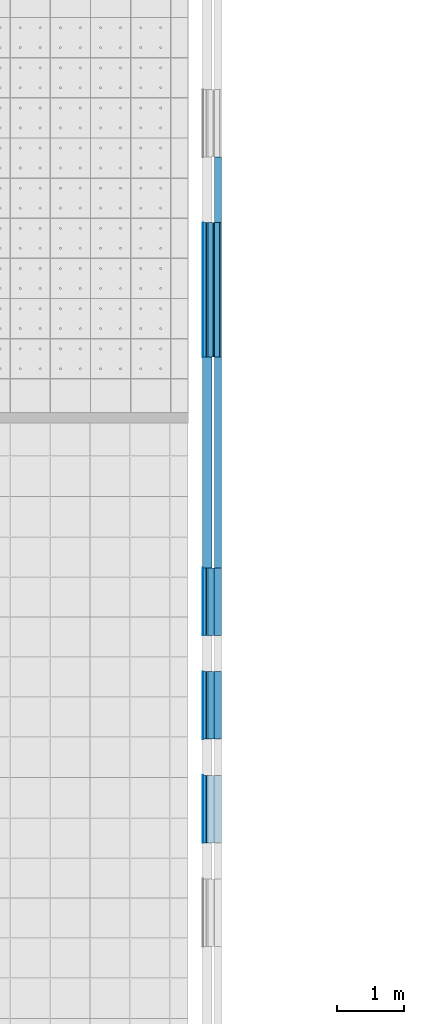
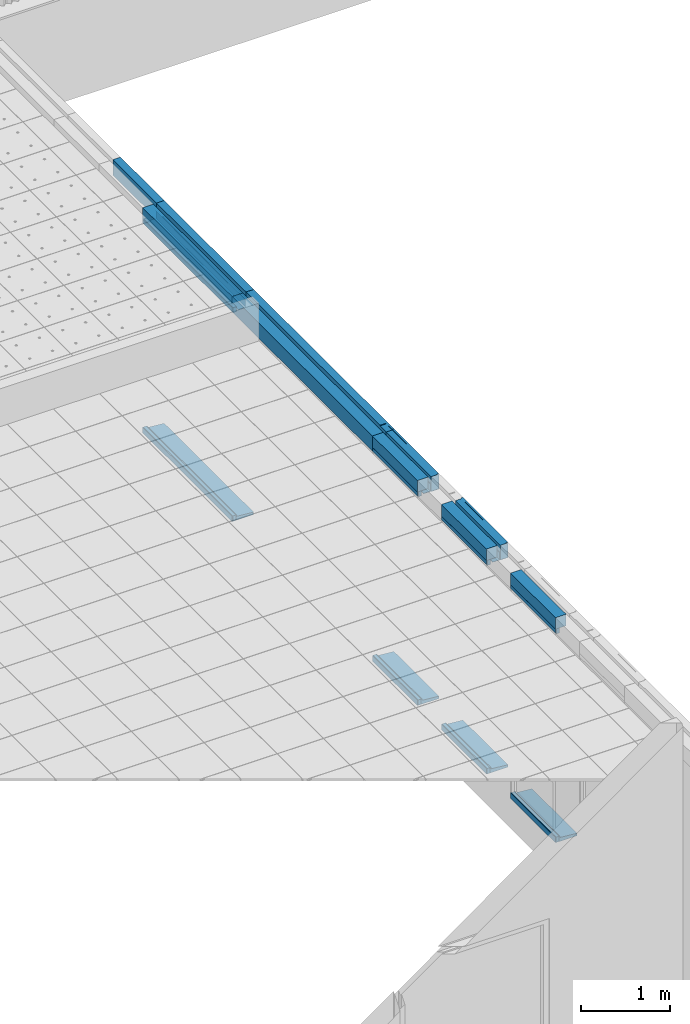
# One storey, part 74 of 338: 36 building element parts, 10 elements without a shape of their own.
"""IFC2X3 building model written with IfcOpenShell, lengths in millimetres."""

from ifc_helpers import new_model, entity, si_unit, converted_unit, derived_unit, money_unit, direction, frame, origin_with_axes, place, context, subcontext, project, spatial, faceted_brep, material, type_object, element, aggregate, save


model = new_model("IFC2X3")

# Units and contexts
model_context = context("Model", 3, precision=0.01, world=origin_with_axes(), true_north=direction((0.0, 1.0)))
plan_context = context("Plan", 3, precision=0.01, world=origin_with_axes(), true_north=direction((0.0, 1.0)))
body_context = subcontext(model_context, "Body", "Model", "MODEL_VIEW")
ifc_project = project(units=[si_unit("LENGTHUNIT", "METRE", prefix="MILLI"), si_unit("AREAUNIT", "SQUARE_METRE"), si_unit("VOLUMEUNIT", "CUBIC_METRE"), converted_unit("PLANEANGLEUNIT", "DEGREE", entity("IfcPlaneAngleMeasure", 0.0174532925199), si_unit("PLANEANGLEUNIT", "RADIAN"), dimensions=[0, 0, 0, 0, 0, 0, 0]), money_unit("EUR"), converted_unit("TIMEUNIT", "Year", entity("IfcTimeMeasure", 31556926.0), si_unit("TIMEUNIT", "SECOND"), dimensions=[0, 0, 1, 0, 0, 0, 0]), si_unit("MASSUNIT", "GRAM", prefix="KILO"), si_unit("THERMODYNAMICTEMPERATUREUNIT", "DEGREE_CELSIUS"), si_unit("LUMINOUSINTENSITYUNIT", "LUMEN"), si_unit("ENERGYUNIT", "JOULE", prefix="MEGA"), derived_unit("THERMALCONDUCTANCEUNIT", [(si_unit("POWERUNIT", "WATT"), 1), (si_unit("LENGTHUNIT", "METRE"), -1), (si_unit("THERMODYNAMICTEMPERATUREUNIT", "KELVIN"), -1)]), derived_unit("SPECIFICHEATCAPACITYUNIT", [(si_unit("ENERGYUNIT", "JOULE"), 1), (si_unit("MASSUNIT", "GRAM", prefix="KILO"), -1), (si_unit("THERMODYNAMICTEMPERATUREUNIT", "KELVIN"), -1)]), derived_unit("MASSDENSITYUNIT", [(si_unit("MASSUNIT", "GRAM", prefix="KILO"), 1), (si_unit("VOLUMEUNIT", "CUBIC_METRE"), -1)])], contexts=[model_context, plan_context])

# Site, building, storey
site_placement = place(None, origin_with_axes())
site = spatial("IfcSite", under=ifc_project, at=site_placement, Name="Fortuinstraat Woensdrecht", CompositionType="ELEMENT")
building_placement = place(site_placement, origin_with_axes())
building = spatial("IfcBuilding", under=site, at=building_placement, Name="IKC Fortuna", CompositionType="ELEMENT")
storey_placement = place(building_placement, origin_with_axes())
storey = spatial("IfcBuildingStorey", under=building, at=storey_placement, Name="00 begane grond", CompositionType="ELEMENT", Elevation=0.0)

# Covering, building element parts
covering_type_1 = type_object("IfcCoveringType", Name="41 Latei MW rollaag 280 x 227", PredefinedType="NOTDEFINED")
covering_1_placement = place(storey_placement, frame((34973.4270641, 14182.1816378, 2800.0), z_axis=(0.0, 0.0, 1.0), x_axis=(0.0, -1.0, 0.0)))
covering_1 = element("IfcCovering", 1, at=covering_1_placement, inside=storey, type_object=covering_type_1, Name="41_Afwerking_Latei + rollaag", PredefinedType="NOTDEFINED")
ifc_material_1 = material(Name="Metaal - Staal C")
building_element_part_1_placement = place(covering_1_placement, origin_with_axes())
building_element_part_1 = element("IfcBuildingElementPart", 2, at=building_element_part_1_placement, material=ifc_material_1, Name="Metaal - Staal C", context=body_context, shape_type="Brep", body=[
    faceted_brep([(2010.0, 19.9999930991, 120.999993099), (0.0, 19.9999930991, 120.999993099), (0.0, 18.0000000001, 119.0), (2010.0, 18.0000000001, 119.0), (0.0, 19.9999930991, 117.000006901), (2010.0, 19.9999930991, 117.000006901)], [[[0, 1, 2, 3]], [[4, 1, 0, 5]], [[1, 4, 2]], [[4, 5, 3, 2]], [[5, 0, 3]]]),
    faceted_brep([(0.0, 33.5147117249, 3.51471862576), (0.0, 32.0, 7.17155621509), (0.0, 32.0, 105.0), (0.0, 29.9999930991, 107.000006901), (0.0, 29.9999930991, 112.580618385), (0.0, 36.0000000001, 106.530733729), (0.0, 36.0000000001, 3.99999999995), (0.0, 36.7573607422, 2.17156942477), (2010.0, 33.5147117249, 3.51471862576), (2010.0, 32.0, 7.17155621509), (2010.0, 32.0, 105.0), (2010.0, 29.9999930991, 107.000006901), (2010.0, 29.9999930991, 112.580618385), (2010.0, 36.0000000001, 106.530733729), (2010.0, 36.0000000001, 3.99999999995), (2010.0, 36.7573607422, 2.17156942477)], [[[0, 1, 2, 3, 4, 5, 6, 7]], [[1, 0, 8, 9]], [[1, 9, 10, 2]], [[11, 3, 2, 10]], [[12, 4, 3, 11]], [[4, 12, 13, 5]], [[5, 13, 14, 6]], [[15, 7, 6, 14]], [[0, 7, 15, 8]], [[8, 15, 14, 13, 12, 11, 10, 9]]]),
    faceted_brep([(2010.0, 119.528896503, -4.86267220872), (0.0, 119.528896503, -4.86267220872), (0.0, 135.215535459, -8.0), (2010.0, 135.215535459, -8.0), (0.0, 118.242633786, -1.75735931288), (2010.0, 118.242633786, -1.75735931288), (0.0, 113.999993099, 0.0), (0.0, 115.609685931, 0.0), (0.0, 136.0, -4.07767729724), (2010.0, 136.0, -4.07767729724), (2010.0, 115.609685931, 0.0), (2010.0, 113.999993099, 0.0)], [[[0, 1, 2, 3]], [[4, 1, 0, 5]], [[4, 6, 7, 8, 2, 1]], [[8, 9, 3, 2]], [[5, 0, 3, 9, 10, 11]], [[6, 4, 5, 11]], [[6, 11, 10, 7]], [[7, 10, 9, 8]]]),
])
ifc_material_2 = material(Name="Steen - Baksteen Accent Rollaag")
building_element_part_2_placement = place(covering_1_placement, origin_with_axes())
building_element_part_2 = element("IfcBuildingElementPart", 3, at=building_element_part_2_placement, material=ifc_material_2, Name="Steen - Baksteen Accent Rollaag", context=body_context, shape_type="Brep", body=[
    faceted_brep([(2010.0, 41.9999930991, 0.0), (0.0, 41.9999930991, 0.0), (0.0, 115.609685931, 0.0), (2010.0, 115.609685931, 0.0), (0.0, 40.0, 0.82842426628), (2010.0, 40.0, 0.82842426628), (0.0, 40.0, 210.0), (0.0, 140.0, 210.0), (0.0, 140.0, 0.0), (2010.0, 140.0, 0.0), (2010.0, 140.0, 210.0), (2010.0, 40.0, 210.0)], [[[0, 1, 2, 3]], [[4, 1, 0, 5]], [[1, 4, 6, 7, 8, 2]], [[8, 9, 3, 2]], [[5, 0, 3, 9, 10, 11]], [[4, 5, 11, 6]], [[6, 11, 10, 7]], [[7, 10, 9, 8]]]),
])
ifc_material_3 = material(Name="Metaal - Staal AFW")
building_element_part_3_placement = place(covering_1_placement, origin_with_axes())
building_element_part_3 = element("IfcBuildingElementPart", 4, at=building_element_part_3_placement, material=ifc_material_3, Name="Metaal - Staal AFW", context=body_context, shape_type="Brep", body=[
    faceted_brep([(2010.0, 19.9999930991, 4.0), (0.0, 19.9999930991, 4.0), (0.0, -58.0, 4.0), (2010.0, -58.0, 4.0), (0.0, 19.9999930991, 0.0), (2010.0, 19.9999930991, 0.0), (0.0, -58.0, 0.0), (2010.0, -58.0, 0.0)], [[[0, 1, 2, 3]], [[4, 1, 0, 5]], [[1, 4, 6, 2]], [[6, 7, 3, 2]], [[5, 0, 3, 7]], [[4, 5, 7, 6]]]),
])
ifc_material_4 = material(Name="ALG - ISOLATIE")
building_element_part_4_placement = place(covering_1_placement, origin_with_axes())
building_element_part_4 = element("IfcBuildingElementPart", 5, at=building_element_part_4_placement, material=ifc_material_4, Name="ALG - ISOLATIE", context=body_context, shape_type="Brep", body=[
    faceted_brep([(2010.0, -140.0, 53.0), (2010.0, -140.0, 210.0), (0.0, -140.0, 210.0), (0.0, -140.0, 53.0), (2010.0, -83.9999988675, 53.0000013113), (2010.0, 0.0, 53.0), (2010.0, 0.0, 210.0), (0.0, 0.0, 210.0), (0.0, 0.0, 53.0), (0.0, -83.9999988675, 53.0000013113)], [[[0, 1, 2, 3]], [[0, 4, 5, 6, 1]], [[1, 6, 7, 2]], [[3, 2, 7, 8, 9]], [[4, 0, 3, 9]], [[5, 4, 9, 8]], [[6, 5, 8, 7]]]),
])
ifc_material_5 = material(Name="Hout AFW")
building_element_part_5_placement = place(covering_1_placement, origin_with_axes())
building_element_part_5 = element("IfcBuildingElementPart", 6, at=building_element_part_5_placement, material=ifc_material_5, Name="Hout AFW", context=body_context, shape_type="Brep", body=[
    faceted_brep([(2010.0, -127.999998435, 53.0000013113), (2010.0, -83.9999988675, 53.0000013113), (0.0, -83.9999988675, 53.0000013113), (0.0, -127.999998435, 53.0000013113), (2010.0, -127.999998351, -1.28576260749e-07), (2010.0, -127.999998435, -17.0), (2010.0, -83.9999988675, -17.0), (0.0, -83.9999988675, -17.0), (0.0, -127.999998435, -17.0), (0.0, -127.999998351, -1.28576260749e-07)], [[[0, 1, 2, 3]], [[0, 4, 5, 6, 1]], [[1, 6, 7, 2]], [[3, 2, 7, 8, 9]], [[4, 0, 3, 9]], [[5, 4, 9, 8]], [[6, 5, 8, 7]]]),
])
ifc_material_6 = material(Name="Isolatie - PUR gespoten")
building_element_part_6_placement = place(covering_1_placement, origin_with_axes())
building_element_part_6 = element("IfcBuildingElementPart", 7, at=building_element_part_6_placement, material=ifc_material_6, Name="Isolatie - PUR gespoten", context=body_context, shape_type="Brep", body=[
    faceted_brep([(2010.0, -139.999999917, 53.0000002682), (2010.0, -127.999998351, 53.0000013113), (0.0, -127.999998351, 53.0000013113), (0.0, -139.999999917, 53.0000002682), (2010.0, -139.999999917, -1.28576260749e-07), (2010.0, -127.999998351, -1.28576260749e-07), (0.0, -127.999998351, -1.28576260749e-07), (0.0, -139.999999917, -1.28576260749e-07)], [[[0, 1, 2, 3]], [[0, 4, 5, 1]], [[1, 5, 6, 2]], [[3, 2, 6, 7]], [[4, 0, 3, 7]], [[5, 4, 7, 6]]]),
])
aggregate(covering_1, [building_element_part_1, building_element_part_2, building_element_part_3, building_element_part_4, building_element_part_5, building_element_part_6])

# Covering, building element part
covering_type_2 = type_object("IfcCoveringType", Name="41 Rollaag 280 x 210", PredefinedType="NOTDEFINED")
covering_2_placement = place(storey_placement, frame((34973.4270641, 15162.1816378, 2800.0), z_axis=(0.0, 0.0, 1.0), x_axis=(0.0, -1.0, 0.0)))
covering_2 = element("IfcCovering", 8, at=covering_2_placement, inside=storey, type_object=covering_type_2, Name="41_Afwerking_Rollaag", PredefinedType="NOTDEFINED")
building_element_part_7_placement = place(covering_2_placement, origin_with_axes())
building_element_part_7 = element("IfcBuildingElementPart", 9, at=building_element_part_7_placement, material=ifc_material_2, Name="Steen - Baksteen Accent Rollaag", context=body_context, shape_type="Brep", body=[
    faceted_brep([(108.547967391, 40.0, 0.0), (108.547967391, 41.9999930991, 0.0), (0.0, 41.9999930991, 0.0), (0.0, 140.0, 0.0), (980.0, 140.0, 0.0), (980.0, 41.9999930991, 0.0), (829.547967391, 41.9999930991, 0.0), (829.547967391, 40.0, 0.0), (108.547967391, 40.0, 0.828424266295), (0.0, 40.0, 0.828424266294), (0.0, 40.0, 210.0), (0.0, 140.0, 210.0), (980.0, 140.0, 210.0), (980.0, 40.0, 0.8284242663), (980.0, 40.0, 210.0), (829.547967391, 40.0, 0.828424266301)], [[[0, 1, 2, 3, 4, 5, 6, 7]], [[1, 0, 8]], [[9, 2, 1, 8]], [[2, 9, 10, 11, 3]], [[11, 12, 4, 3]], [[13, 5, 4, 12, 14]], [[6, 5, 13, 15]], [[7, 6, 15]], [[8, 0, 7, 15, 13, 14, 10, 9]], [[10, 14, 12, 11]]]),
])
aggregate(covering_2, [building_element_part_7])

# Covering, building element parts
covering_3_placement = place(storey_placement, frame((34973.4270641, 12172.1816378, 2800.0), z_axis=(0.0, 0.0, 1.0), x_axis=(0.0, -1.0, 0.0)))
covering_3 = element("IfcCovering", 10, at=covering_3_placement, inside=storey, type_object=covering_type_2, Name="41_Afwerking_Rollaag", PredefinedType="NOTDEFINED")
building_element_part_8_placement = place(covering_3_placement, origin_with_axes())
building_element_part_8 = element("IfcBuildingElementPart", 11, at=building_element_part_8_placement, material=ifc_material_2, Name="Steen - Baksteen Accent Rollaag", context=body_context, shape_type="Brep", body=[
    faceted_brep([(108.376164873, 40.0, 0.0), (108.376164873, 41.9999930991, 0.0), (0.0, 41.9999930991, 0.0), (0.0, 140.0, 0.0), (3148.8850095, 140.0, 0.0), (3148.8850095, 40.0, 0.0), (108.376164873, 40.0, 0.828424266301), (0.0, 40.0, 0.828424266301), (0.0, 40.0, 210.0), (0.0, 140.0, 210.0), (3148.8850095, 140.0, 210.0), (3148.8850095, 113.999993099, 210.0), (3148.8850095, 118.242633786, 208.242640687), (3148.8850095, 119.999993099, 204.0), (3148.8850095, 119.999993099, 200.0), (3148.8850095, 40.0, 200.0), (3010.6113003, 40.0, 200.0), (3010.6113003, 40.0, 210.0), (3010.6113003, 113.999993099, 210.0), (3010.6113003, 41.9999930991, 210.0), (3010.6113003, 118.242633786, 208.242640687), (3010.6113003, 119.999993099, 204.0), (3010.6113003, 119.999993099, 200.0)], [[[0, 1, 2, 3, 4, 5]], [[1, 0, 6]], [[7, 2, 1, 6]], [[2, 7, 8, 9, 3]], [[9, 10, 4, 3]], [[11, 12, 13, 14, 15, 5, 4, 10]], [[6, 0, 5, 15, 16, 17, 8, 7]], [[18, 11, 10, 9, 8, 17, 19]], [[12, 11, 18, 20]], [[13, 12, 20, 21]], [[14, 13, 21, 22]], [[15, 14, 22, 16]], [[18, 19, 17, 16, 22, 21, 20]]]),
])
building_element_part_9_placement = place(covering_3_placement, origin_with_axes())
building_element_part_9 = element("IfcBuildingElementPart", 12, at=building_element_part_9_placement, material=ifc_material_4, Name="ALG - ISOLATIE", context=body_context, shape_type="Brep", body=[
    faceted_brep([(3148.8850095, 0.0, 0.0), (3148.8850095, -140.0, 0.0), (0.0, -140.0, 0.0), (0.0, 0.0, 0.0), (3148.8850095, 0.0, 210.0), (3148.8850095, -140.0, 210.0), (0.0, -140.0, 210.0), (0.0, 0.0, 210.0)], [[[0, 1, 2, 3]], [[0, 4, 5, 1]], [[1, 5, 6, 2]], [[3, 2, 6, 7]], [[4, 0, 3, 7]], [[5, 4, 7, 6]]]),
])
aggregate(covering_3, [building_element_part_8, building_element_part_9])

covering_4_placement = place(storey_placement, frame((34973.4270641, 5923.29662827, 2800.0), z_axis=(0.0, 0.0, 1.0), x_axis=(0.0, -1.0, 0.0)))
covering_4 = element("IfcCovering", 13, at=covering_4_placement, inside=storey, type_object=covering_type_1, Name="41_Afwerking_Latei + rollaag", PredefinedType="NOTDEFINED")
building_element_part_10_placement = place(covering_4_placement, origin_with_axes())
building_element_part_10 = element("IfcBuildingElementPart", 14, at=building_element_part_10_placement, material=ifc_material_4, Name="ALG - ISOLATIE", context=body_context, shape_type="Brep", body=[
    faceted_brep([(1010.0, -140.0, 53.0), (1010.0, -140.0, 210.0), (0.0, -140.0, 210.0), (0.0, -140.0, 53.0), (1010.0, -83.9999988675, 53.0000013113), (1010.0, 0.0, 53.0), (1010.0, 0.0, 210.0), (0.0, 0.0, 210.0), (0.0, 0.0, 53.0), (0.0, -83.9999988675, 53.0000013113)], [[[0, 1, 2, 3]], [[0, 4, 5, 6, 1]], [[1, 6, 7, 2]], [[3, 2, 7, 8, 9]], [[4, 0, 3, 9]], [[5, 4, 9, 8]], [[6, 5, 8, 7]]]),
])
building_element_part_11_placement = place(covering_4_placement, origin_with_axes())
building_element_part_11 = element("IfcBuildingElementPart", 15, at=building_element_part_11_placement, material=ifc_material_5, Name="Hout AFW", context=body_context, shape_type="Brep", body=[
    faceted_brep([(1010.0, -127.999998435, 53.0000013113), (1010.0, -83.9999988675, 53.0000013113), (0.0, -83.9999988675, 53.0000013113), (0.0, -127.999998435, 53.0000013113), (1010.0, -127.999998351, -1.28576260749e-07), (1010.0, -127.999998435, -17.0), (1010.0, -83.9999988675, -17.0), (0.0, -83.9999988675, -17.0), (0.0, -127.999998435, -17.0), (0.0, -127.999998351, -1.28576260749e-07)], [[[0, 1, 2, 3]], [[0, 4, 5, 6, 1]], [[1, 6, 7, 2]], [[3, 2, 7, 8, 9]], [[4, 0, 3, 9]], [[5, 4, 9, 8]], [[6, 5, 8, 7]]]),
])
building_element_part_12_placement = place(covering_4_placement, origin_with_axes())
building_element_part_12 = element("IfcBuildingElementPart", 16, at=building_element_part_12_placement, material=ifc_material_6, Name="Isolatie - PUR gespoten", context=body_context, shape_type="Brep", body=[
    faceted_brep([(1010.0, -139.999999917, 53.0000002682), (1010.0, -127.999998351, 53.0000013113), (0.0, -127.999998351, 53.0000013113), (0.0, -139.999999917, 53.0000002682), (1010.0, -139.999999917, -1.28576260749e-07), (1010.0, -127.999998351, -1.28576260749e-07), (0.0, -127.999998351, -1.28576260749e-07), (0.0, -139.999999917, -1.28576260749e-07)], [[[0, 1, 2, 3]], [[0, 4, 5, 1]], [[1, 5, 6, 2]], [[3, 2, 6, 7]], [[4, 0, 3, 7]], [[5, 4, 7, 6]]]),
])
aggregate(covering_4, [building_element_part_10, building_element_part_11, building_element_part_12])

covering_5_placement = place(storey_placement, frame((34973.4270641, 7473.29662827, 2800.0), z_axis=(0.0, 0.0, 1.0), x_axis=(0.0, -1.0, 0.0)))
covering_5 = element("IfcCovering", 17, at=covering_5_placement, inside=storey, type_object=covering_type_1, Name="41_Afwerking_Latei + rollaag", PredefinedType="NOTDEFINED")
building_element_part_13_placement = place(covering_5_placement, origin_with_axes())
building_element_part_13 = element("IfcBuildingElementPart", 18, at=building_element_part_13_placement, material=ifc_material_1, Name="Metaal - Staal C", context=body_context, shape_type="Brep", body=[
    faceted_brep([(1010.0, 135.215535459, -8.0), (1010.0, 115.215535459, -4.0), (0.0, 115.215535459, -4.0), (0.0, 135.215535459, -8.0), (1010.0, 136.0, -4.07767729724), (1010.0, 115.609685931, 0.0), (1010.0, 40.0, 0.0), (1010.0, 37.1715728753, 1.17157287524), (1010.0, 36.0000000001, 3.99999999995), (1010.0, 36.0000000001, 106.530733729), (1010.0, 20.8284271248, 121.828427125), (1010.0, 18.0000000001, 119.0), (1010.0, 32.0, 105.0), (1010.0, 32.0, 4.0), (1010.0, 32.0, 0.0), (1010.0, 33.1715728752, -2.82842712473), (1010.0, 36.0, -4.0), (0.0, 36.0, -4.0), (0.0, 33.1715728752, -2.82842712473), (0.0, 32.0, 0.0), (0.0, 32.0, 4.0), (0.0, 32.0, 105.0), (0.0, 18.0000000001, 119.0), (0.0, 20.8284271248, 121.828427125), (0.0, 36.0000000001, 106.530733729), (0.0, 36.0000000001, 3.99999999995), (0.0, 37.1715728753, 1.17157287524), (0.0, 40.0, 0.0), (0.0, 115.609685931, 0.0), (0.0, 136.0, -4.07767729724)], [[[0, 1, 2, 3]], [[0, 4, 5, 6, 7, 8, 9, 10, 11, 12, 13, 14, 15, 16, 1]], [[1, 16, 17, 2]], [[3, 2, 17, 18, 19, 20, 21, 22, 23, 24, 25, 26, 27, 28, 29]], [[4, 0, 3, 29]], [[5, 4, 29, 28]], [[6, 5, 28, 27]], [[7, 6, 27, 26]], [[8, 7, 26, 25]], [[9, 8, 25, 24]], [[10, 9, 24, 23]], [[11, 10, 23, 22]], [[12, 11, 22, 21]], [[13, 12, 21, 20]], [[14, 13, 20, 19]], [[15, 14, 19, 18]], [[16, 15, 18, 17]]]),
])
building_element_part_14_placement = place(covering_5_placement, origin_with_axes())
building_element_part_14 = element("IfcBuildingElementPart", 19, at=building_element_part_14_placement, material=ifc_material_2, Name="Steen - Baksteen Accent Rollaag", context=body_context, shape_type="Brep", body=[
    faceted_brep([(0.0, 40.0, 200.0), (0.0, 119.999993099, 200.0), (0.0, 119.999993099, 204.0), (0.0, 118.242633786, 208.242640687), (0.0, 113.999993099, 210.0), (0.0, 140.0, 210.0), (0.0, 140.0, 0.0), (0.0, 115.609685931, 0.0), (0.0, 40.0, 0.0), (1010.0, 40.0, 200.0), (1010.0, 119.999993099, 200.0), (1010.0, 119.999993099, 204.0), (1010.0, 118.242633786, 208.242640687), (1010.0, 113.999993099, 210.0), (1010.0, 140.0, 210.0), (1010.0, 140.0, 0.0), (1010.0, 115.609685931, 0.0), (1010.0, 40.0, 0.0)], [[[0, 1, 2, 3, 4, 5, 6, 7, 8]], [[1, 0, 9, 10]], [[2, 1, 10, 11]], [[3, 2, 11, 12]], [[4, 3, 12, 13]], [[4, 13, 14, 5]], [[5, 14, 15, 6]], [[6, 15, 16, 7]], [[7, 16, 17, 8]], [[9, 0, 8, 17]], [[10, 9, 17, 16, 15, 14, 13, 12, 11]]]),
])
building_element_part_15_placement = place(covering_5_placement, origin_with_axes())
building_element_part_15 = element("IfcBuildingElementPart", 20, at=building_element_part_15_placement, material=ifc_material_3, Name="Metaal - Staal AFW", context=body_context, shape_type="Brep", body=[
    faceted_brep([(1010.0, 32.0, 4.0), (1010.0, 32.0, 0.0), (0.0, 32.0, 0.0), (0.0, 32.0, 4.0), (1010.0, -58.0, 4.0), (1010.0, -58.0, 0.0), (0.0, -58.0, 0.0), (0.0, -58.0, 4.0)], [[[0, 1, 2, 3]], [[0, 4, 5, 1]], [[1, 5, 6, 2]], [[3, 2, 6, 7]], [[4, 0, 3, 7]], [[5, 4, 7, 6]]]),
])
building_element_part_16_placement = place(covering_5_placement, origin_with_axes())
building_element_part_16 = element("IfcBuildingElementPart", 21, at=building_element_part_16_placement, material=ifc_material_4, Name="ALG - ISOLATIE", context=body_context, shape_type="Brep", body=[
    faceted_brep([(1010.0, -140.0, 53.0), (1010.0, -140.0, 210.0), (0.0, -140.0, 210.0), (0.0, -140.0, 53.0), (1010.0, -83.9999988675, 53.0000013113), (1010.0, 0.0, 53.0), (1010.0, 0.0, 210.0), (0.0, 0.0, 210.0), (0.0, 0.0, 53.0), (0.0, -83.9999988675, 53.0000013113)], [[[0, 1, 2, 3]], [[0, 4, 5, 6, 1]], [[1, 6, 7, 2]], [[3, 2, 7, 8, 9]], [[4, 0, 3, 9]], [[5, 4, 9, 8]], [[6, 5, 8, 7]]]),
])
building_element_part_17_placement = place(covering_5_placement, origin_with_axes())
building_element_part_17 = element("IfcBuildingElementPart", 22, at=building_element_part_17_placement, material=ifc_material_5, Name="Hout AFW", context=body_context, shape_type="Brep", body=[
    faceted_brep([(1010.0, -127.999998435, 53.0000013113), (1010.0, -83.9999988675, 53.0000013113), (0.0, -83.9999988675, 53.0000013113), (0.0, -127.999998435, 53.0000013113), (1010.0, -127.999998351, -1.28576260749e-07), (1010.0, -127.999998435, -17.0), (1010.0, -83.9999988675, -17.0), (0.0, -83.9999988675, -17.0), (0.0, -127.999998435, -17.0), (0.0, -127.999998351, -1.28576260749e-07)], [[[0, 1, 2, 3]], [[0, 4, 5, 6, 1]], [[1, 6, 7, 2]], [[3, 2, 7, 8, 9]], [[4, 0, 3, 9]], [[5, 4, 9, 8]], [[6, 5, 8, 7]]]),
])
building_element_part_18_placement = place(covering_5_placement, origin_with_axes())
building_element_part_18 = element("IfcBuildingElementPart", 23, at=building_element_part_18_placement, material=ifc_material_6, Name="Isolatie - PUR gespoten", context=body_context, shape_type="Brep", body=[
    faceted_brep([(1010.0, -139.999999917, 53.0000002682), (1010.0, -127.999998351, 53.0000013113), (0.0, -127.999998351, 53.0000013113), (0.0, -139.999999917, 53.0000002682), (1010.0, -139.999999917, -1.28576260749e-07), (1010.0, -127.999998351, -1.28576260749e-07), (0.0, -127.999998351, -1.28576260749e-07), (0.0, -139.999999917, -1.28576260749e-07)], [[[0, 1, 2, 3]], [[0, 4, 5, 1]], [[1, 5, 6, 2]], [[3, 2, 6, 7]], [[4, 0, 3, 7]], [[5, 4, 7, 6]]]),
])
aggregate(covering_5, [building_element_part_13, building_element_part_14, building_element_part_15, building_element_part_16, building_element_part_17, building_element_part_18])

covering_6_placement = place(storey_placement, frame((34973.4270641, 9023.29662827, 2800.0), z_axis=(0.0, 0.0, 1.0), x_axis=(0.0, -1.0, 0.0)))
covering_6 = element("IfcCovering", 24, at=covering_6_placement, inside=storey, type_object=covering_type_1, Name="41_Afwerking_Latei + rollaag", PredefinedType="NOTDEFINED")
building_element_part_19_placement = place(covering_6_placement, origin_with_axes())
building_element_part_19 = element("IfcBuildingElementPart", 25, at=building_element_part_19_placement, material=ifc_material_1, Name="Metaal - Staal C", context=body_context, shape_type="Brep", body=[
    faceted_brep([(1010.0, 135.215535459, -8.0), (1010.0, 115.215535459, -4.0), (0.0, 115.215535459, -4.0), (0.0, 135.215535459, -8.0), (1010.0, 136.0, -4.07767729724), (1010.0, 115.609685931, 0.0), (1010.0, 40.0, 0.0), (1010.0, 37.1715728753, 1.17157287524), (1010.0, 36.0000000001, 3.99999999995), (1010.0, 36.0000000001, 106.530733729), (1010.0, 20.8284271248, 121.828427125), (1010.0, 18.0000000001, 119.0), (1010.0, 32.0, 105.0), (1010.0, 32.0, 4.0), (1010.0, 32.0, 0.0), (1010.0, 33.1715728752, -2.82842712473), (1010.0, 36.0, -4.0), (0.0, 36.0, -4.0), (0.0, 33.1715728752, -2.82842712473), (0.0, 32.0, 0.0), (0.0, 32.0, 4.0), (0.0, 32.0, 105.0), (0.0, 18.0000000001, 119.0), (0.0, 20.8284271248, 121.828427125), (0.0, 36.0000000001, 106.530733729), (0.0, 36.0000000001, 3.99999999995), (0.0, 37.1715728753, 1.17157287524), (0.0, 40.0, 0.0), (0.0, 115.609685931, 0.0), (0.0, 136.0, -4.07767729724)], [[[0, 1, 2, 3]], [[0, 4, 5, 6, 7, 8, 9, 10, 11, 12, 13, 14, 15, 16, 1]], [[1, 16, 17, 2]], [[3, 2, 17, 18, 19, 20, 21, 22, 23, 24, 25, 26, 27, 28, 29]], [[4, 0, 3, 29]], [[5, 4, 29, 28]], [[6, 5, 28, 27]], [[7, 6, 27, 26]], [[8, 7, 26, 25]], [[9, 8, 25, 24]], [[10, 9, 24, 23]], [[11, 10, 23, 22]], [[12, 11, 22, 21]], [[13, 12, 21, 20]], [[14, 13, 20, 19]], [[15, 14, 19, 18]], [[16, 15, 18, 17]]]),
])
building_element_part_20_placement = place(covering_6_placement, origin_with_axes())
building_element_part_20 = element("IfcBuildingElementPart", 26, at=building_element_part_20_placement, material=ifc_material_2, Name="Steen - Baksteen Accent Rollaag", context=body_context, shape_type="Brep", body=[
    faceted_brep([(0.0, 40.0, 200.0), (0.0, 119.999993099, 200.0), (0.0, 119.999993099, 204.0), (0.0, 118.242633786, 208.242640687), (0.0, 113.999993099, 210.0), (0.0, 140.0, 210.0), (0.0, 140.0, 0.0), (0.0, 115.609685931, 0.0), (0.0, 40.0, 0.0), (1010.0, 40.0, 200.0), (1010.0, 119.999993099, 200.0), (1010.0, 119.999993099, 204.0), (1010.0, 118.242633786, 208.242640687), (1010.0, 113.999993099, 210.0), (1010.0, 140.0, 210.0), (1010.0, 140.0, 0.0), (1010.0, 115.609685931, 0.0), (1010.0, 40.0, 0.0)], [[[0, 1, 2, 3, 4, 5, 6, 7, 8]], [[1, 0, 9, 10]], [[2, 1, 10, 11]], [[3, 2, 11, 12]], [[4, 3, 12, 13]], [[4, 13, 14, 5]], [[5, 14, 15, 6]], [[6, 15, 16, 7]], [[7, 16, 17, 8]], [[9, 0, 8, 17]], [[10, 9, 17, 16, 15, 14, 13, 12, 11]]]),
])
building_element_part_21_placement = place(covering_6_placement, origin_with_axes())
building_element_part_21 = element("IfcBuildingElementPart", 27, at=building_element_part_21_placement, material=ifc_material_3, Name="Metaal - Staal AFW", context=body_context, shape_type="Brep", body=[
    faceted_brep([(1010.0, 32.0, 4.0), (1010.0, 32.0, 0.0), (0.0, 32.0, 0.0), (0.0, 32.0, 4.0), (1010.0, -58.0, 4.0), (1010.0, -58.0, 0.0), (0.0, -58.0, 0.0), (0.0, -58.0, 4.0)], [[[0, 1, 2, 3]], [[0, 4, 5, 1]], [[1, 5, 6, 2]], [[3, 2, 6, 7]], [[4, 0, 3, 7]], [[5, 4, 7, 6]]]),
])
building_element_part_22_placement = place(covering_6_placement, origin_with_axes())
building_element_part_22 = element("IfcBuildingElementPart", 28, at=building_element_part_22_placement, material=ifc_material_4, Name="ALG - ISOLATIE", context=body_context, shape_type="Brep", body=[
    faceted_brep([(1010.0, -140.0, 53.0), (1010.0, -140.0, 210.0), (0.0, -140.0, 210.0), (0.0, -140.0, 53.0), (1010.0, -83.9999988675, 53.0000013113), (1010.0, 0.0, 53.0), (1010.0, 0.0, 210.0), (0.0, 0.0, 210.0), (0.0, 0.0, 53.0), (0.0, -83.9999988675, 53.0000013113)], [[[0, 1, 2, 3]], [[0, 4, 5, 6, 1]], [[1, 6, 7, 2]], [[3, 2, 7, 8, 9]], [[4, 0, 3, 9]], [[5, 4, 9, 8]], [[6, 5, 8, 7]]]),
])
building_element_part_23_placement = place(covering_6_placement, origin_with_axes())
building_element_part_23 = element("IfcBuildingElementPart", 29, at=building_element_part_23_placement, material=ifc_material_5, Name="Hout AFW", context=body_context, shape_type="Brep", body=[
    faceted_brep([(1010.0, -127.999998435, 53.0000013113), (1010.0, -83.9999988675, 53.0000013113), (0.0, -83.9999988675, 53.0000013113), (0.0, -127.999998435, 53.0000013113), (1010.0, -127.999998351, -1.28576260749e-07), (1010.0, -127.999998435, -17.0), (1010.0, -83.9999988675, -17.0), (0.0, -83.9999988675, -17.0), (0.0, -127.999998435, -17.0), (0.0, -127.999998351, -1.28576260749e-07)], [[[0, 1, 2, 3]], [[0, 4, 5, 6, 1]], [[1, 6, 7, 2]], [[3, 2, 7, 8, 9]], [[4, 0, 3, 9]], [[5, 4, 9, 8]], [[6, 5, 8, 7]]]),
])
building_element_part_24_placement = place(covering_6_placement, origin_with_axes())
building_element_part_24 = element("IfcBuildingElementPart", 30, at=building_element_part_24_placement, material=ifc_material_6, Name="Isolatie - PUR gespoten", context=body_context, shape_type="Brep", body=[
    faceted_brep([(1010.0, -139.999999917, 53.0000002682), (1010.0, -127.999998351, 53.0000013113), (0.0, -127.999998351, 53.0000013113), (0.0, -139.999999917, 53.0000002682), (1010.0, -139.999999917, -1.28576260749e-07), (1010.0, -127.999998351, -1.28576260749e-07), (0.0, -127.999998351, -1.28576260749e-07), (0.0, -139.999999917, -1.28576260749e-07)], [[[0, 1, 2, 3]], [[0, 4, 5, 1]], [[1, 5, 6, 2]], [[3, 2, 6, 7]], [[4, 0, 3, 7]], [[5, 4, 7, 6]]]),
])
aggregate(covering_6, [building_element_part_19, building_element_part_20, building_element_part_21, building_element_part_22, building_element_part_23, building_element_part_24])

covering_type_3 = type_object("IfcCoveringType", Name="41 dorpel aan peil 280 x 75", PredefinedType="NOTDEFINED")
covering_7_placement = place(storey_placement, frame((34973.4270571, 5923.29662827, -2.5), z_axis=(0.0, 0.0, 1.0), x_axis=(0.0, -1.0, 0.0)))
covering_7 = element("IfcCovering", 31, at=covering_7_placement, inside=storey, type_object=covering_type_3, Name="41_Afwerking_Waterslag", PredefinedType="NOTDEFINED")
ifc_material_7 = material(Name="Steen - Kunststeen")
building_element_part_25_placement = place(covering_7_placement, origin_with_axes())
building_element_part_25 = element("IfcBuildingElementPart", 32, at=building_element_part_25_placement, material=ifc_material_7, Name="Steen - Kunststeen", context=body_context, shape_type="Brep", body=[
    faceted_brep([(1010.0, 140.0, -39.7722078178), (1010.0, 140.0, -72.5), (0.0, 140.0, -72.5), (0.0, 140.0, -39.7722078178), (1010.0, -82.0, -19.5865456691), (1010.0, -82.0, 2.5), (1010.0, -92.0, 2.5), (1010.0, -92.0, -72.5), (0.0, -92.0, -72.5), (0.0, -92.0, 2.5), (0.0, -82.0, 2.5), (0.0, -82.0, -19.5865456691)], [[[0, 1, 2, 3]], [[0, 4, 5, 6, 7, 1]], [[1, 7, 8, 2]], [[3, 2, 8, 9, 10, 11]], [[4, 0, 3, 11]], [[5, 4, 11, 10]], [[6, 5, 10, 9]], [[7, 6, 9, 8]]]),
])
building_element_part_26_placement = place(covering_7_placement, origin_with_axes())
building_element_part_26 = element("IfcBuildingElementPart", 33, at=building_element_part_26_placement, material=ifc_material_5, Name="Hout AFW", context=body_context, shape_type="Brep", body=[
    faceted_brep([(1010.0, -92.0000008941, 2.49999865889), (1010.0, -92.0000008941, -72.5), (0.0, -92.0000008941, -72.5), (0.0, -92.0000008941, 2.49999865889), (1010.0, -130.0, 2.49999865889), (1010.0, -130.0, -72.5), (0.0, -130.0, -72.5), (0.0, -130.0, 2.49999865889)], [[[0, 1, 2, 3]], [[0, 4, 5, 1]], [[1, 5, 6, 2]], [[3, 2, 6, 7]], [[4, 0, 3, 7]], [[5, 4, 7, 6]]]),
])
building_element_part_27_placement = place(covering_7_placement, origin_with_axes())
building_element_part_27 = element("IfcBuildingElementPart", 34, at=building_element_part_27_placement, material=ifc_material_6, Name="Isolatie - PUR gespoten", context=body_context, shape_type="Brep", body=[
    faceted_brep([(1010.0, -129.999999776, -72.5), (1010.0, -139.999999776, -72.5), (0.0, -139.999999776, -72.5), (0.0, -129.999999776, -72.5), (1010.0, -129.999999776, 2.49999888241), (1010.0, -139.999999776, 2.5), (0.0, -139.999999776, 2.5), (0.0, -129.999999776, 2.49999888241)], [[[0, 1, 2, 3]], [[0, 4, 5, 1]], [[1, 5, 6, 2]], [[3, 2, 6, 7]], [[4, 0, 3, 7]], [[5, 4, 7, 6]]]),
])
aggregate(covering_7, [building_element_part_25, building_element_part_26, building_element_part_27])

covering_8_placement = place(storey_placement, frame((34973.4267756, 7473.65066666, -2.5), z_axis=(0.0, 0.0, 1.0), x_axis=(0.0, -1.0, 0.0)))
covering_8 = element("IfcCovering", 35, at=covering_8_placement, inside=storey, type_object=covering_type_3, Name="41_Afwerking_Dorpel", PredefinedType="NOTDEFINED")
building_element_part_28_placement = place(covering_8_placement, origin_with_axes())
building_element_part_28 = element("IfcBuildingElementPart", 36, at=building_element_part_28_placement, material=ifc_material_7, Name="Steen - Kunststeen", context=body_context, shape_type="Brep", body=[
    faceted_brep([(1010.35403839, 140.0, -39.7722078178), (1010.35403839, 140.0, -72.5), (0.0, 140.0, -72.5), (0.0, 140.0, -39.7722078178), (1010.35403839, -82.0, -19.5865456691), (1010.35403839, -82.0, 2.5), (1010.35403839, -92.0, 2.5), (1010.35403839, -92.0, -72.5), (0.0, -92.0, -72.5), (0.0, -92.0, 2.5), (0.0, -82.0, 2.5), (0.0, -82.0, -19.5865456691)], [[[0, 1, 2, 3]], [[0, 4, 5, 6, 7, 1]], [[1, 7, 8, 2]], [[3, 2, 8, 9, 10, 11]], [[4, 0, 3, 11]], [[5, 4, 11, 10]], [[6, 5, 10, 9]], [[7, 6, 9, 8]]]),
])
building_element_part_29_placement = place(covering_8_placement, origin_with_axes())
building_element_part_29 = element("IfcBuildingElementPart", 37, at=building_element_part_29_placement, material=ifc_material_5, Name="Hout AFW", context=body_context, shape_type="Brep", body=[
    faceted_brep([(1010.35403839, -92.0000008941, 2.49999865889), (1010.35403839, -92.0000008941, -72.5), (0.0, -92.0000008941, -72.5), (0.0, -92.0000008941, 2.49999865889), (1010.35403839, -130.0, 2.49999865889), (1010.35403839, -130.0, -72.5), (0.0, -130.0, -72.5), (0.0, -130.0, 2.49999865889)], [[[0, 1, 2, 3]], [[0, 4, 5, 1]], [[1, 5, 6, 2]], [[3, 2, 6, 7]], [[4, 0, 3, 7]], [[5, 4, 7, 6]]]),
])
building_element_part_30_placement = place(covering_8_placement, origin_with_axes())
building_element_part_30 = element("IfcBuildingElementPart", 38, at=building_element_part_30_placement, material=ifc_material_6, Name="Isolatie - PUR gespoten", context=body_context, shape_type="Brep", body=[
    faceted_brep([(1010.35403839, -129.999999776, -72.5), (1010.35403839, -139.999999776, -72.5), (0.0, -139.999999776, -72.5), (0.0, -129.999999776, -72.5), (1010.35403839, -129.999999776, 2.49999888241), (1010.35403839, -139.999999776, 2.5), (0.0, -139.999999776, 2.5), (0.0, -129.999999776, 2.49999888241)], [[[0, 1, 2, 3]], [[0, 4, 5, 1]], [[1, 5, 6, 2]], [[3, 2, 6, 7]], [[4, 0, 3, 7]], [[5, 4, 7, 6]]]),
])
aggregate(covering_8, [building_element_part_28, building_element_part_29, building_element_part_30])

covering_9_placement = place(storey_placement, frame((34973.4267756, 9023.65066666, -2.5), z_axis=(0.0, 0.0, 1.0), x_axis=(0.0, -1.0, 0.0)))
covering_9 = element("IfcCovering", 39, at=covering_9_placement, inside=storey, type_object=covering_type_3, Name="41_Afwerking_Dorpel", PredefinedType="NOTDEFINED")
building_element_part_31_placement = place(covering_9_placement, origin_with_axes())
building_element_part_31 = element("IfcBuildingElementPart", 40, at=building_element_part_31_placement, material=ifc_material_7, Name="Steen - Kunststeen", context=body_context, shape_type="Brep", body=[
    faceted_brep([(1010.35403839, 140.0, -39.7722078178), (1010.35403839, 140.0, -72.5), (0.0, 140.0, -72.5), (0.0, 140.0, -39.7722078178), (1010.35403839, -82.0, -19.5865456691), (1010.35403839, -82.0, 2.5), (1010.35403839, -92.0, 2.5), (1010.35403839, -92.0, -72.5), (0.0, -92.0, -72.5), (0.0, -92.0, 2.5), (0.0, -82.0, 2.5), (0.0, -82.0, -19.5865456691)], [[[0, 1, 2, 3]], [[0, 4, 5, 6, 7, 1]], [[1, 7, 8, 2]], [[3, 2, 8, 9, 10, 11]], [[4, 0, 3, 11]], [[5, 4, 11, 10]], [[6, 5, 10, 9]], [[7, 6, 9, 8]]]),
])
building_element_part_32_placement = place(covering_9_placement, origin_with_axes())
building_element_part_32 = element("IfcBuildingElementPart", 41, at=building_element_part_32_placement, material=ifc_material_5, Name="Hout AFW", context=body_context, shape_type="Brep", body=[
    faceted_brep([(1010.35403839, -92.0000008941, 2.49999865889), (1010.35403839, -92.0000008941, -72.5), (0.0, -92.0000008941, -72.5), (0.0, -92.0000008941, 2.49999865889), (1010.35403839, -130.0, 2.49999865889), (1010.35403839, -130.0, -72.5), (0.0, -130.0, -72.5), (0.0, -130.0, 2.49999865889)], [[[0, 1, 2, 3]], [[0, 4, 5, 1]], [[1, 5, 6, 2]], [[3, 2, 6, 7]], [[4, 0, 3, 7]], [[5, 4, 7, 6]]]),
])
building_element_part_33_placement = place(covering_9_placement, origin_with_axes())
building_element_part_33 = element("IfcBuildingElementPart", 42, at=building_element_part_33_placement, material=ifc_material_6, Name="Isolatie - PUR gespoten", context=body_context, shape_type="Brep", body=[
    faceted_brep([(1010.35403839, -129.999999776, -72.5), (1010.35403839, -139.999999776, -72.5), (0.0, -139.999999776, -72.5), (0.0, -129.999999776, -72.5), (1010.35403839, -129.999999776, 2.49999888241), (1010.35403839, -139.999999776, 2.5), (0.0, -139.999999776, 2.5), (0.0, -129.999999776, 2.49999888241)], [[[0, 1, 2, 3]], [[0, 4, 5, 1]], [[1, 5, 6, 2]], [[3, 2, 6, 7]], [[4, 0, 3, 7]], [[5, 4, 7, 6]]]),
])
aggregate(covering_9, [building_element_part_31, building_element_part_32, building_element_part_33])

covering_10_placement = place(storey_placement, frame((34973.4267756, 14182.1816378, -2.5), z_axis=(0.0, 0.0, 1.0), x_axis=(0.0, -1.0, 0.0)))
covering_10 = element("IfcCovering", 43, at=covering_10_placement, inside=storey, type_object=covering_type_3, Name="41_Afwerking_Dorpel", PredefinedType="NOTDEFINED")
building_element_part_34_placement = place(covering_10_placement, origin_with_axes())
building_element_part_34 = element("IfcBuildingElementPart", 44, at=building_element_part_34_placement, material=ifc_material_7, Name="Steen - Kunststeen", context=body_context, shape_type="Brep", body=[
    faceted_brep([(2010.0, 140.0, -39.7722078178), (2010.0, 140.0, -72.5), (0.0, 140.0, -72.5), (0.0, 140.0, -39.7722078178), (2010.0, -82.0, -19.5865456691), (2010.0, -82.0, 2.5), (2010.0, -92.0, 2.5), (2010.0, -92.0, -72.5), (0.0, -92.0, -72.5), (0.0, -92.0, 2.5), (0.0, -82.0, 2.5), (0.0, -82.0, -19.5865456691)], [[[0, 1, 2, 3]], [[0, 4, 5, 6, 7, 1]], [[1, 7, 8, 2]], [[3, 2, 8, 9, 10, 11]], [[4, 0, 3, 11]], [[5, 4, 11, 10]], [[6, 5, 10, 9]], [[7, 6, 9, 8]]]),
])
building_element_part_35_placement = place(covering_10_placement, origin_with_axes())
building_element_part_35 = element("IfcBuildingElementPart", 45, at=building_element_part_35_placement, material=ifc_material_5, Name="Hout AFW", context=body_context, shape_type="Brep", body=[
    faceted_brep([(2010.0, -92.0000008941, 2.49999865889), (2010.0, -92.0000008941, -72.5), (0.0, -92.0000008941, -72.5), (0.0, -92.0000008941, 2.49999865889), (2010.0, -130.0, 2.49999865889), (2010.0, -130.0, -72.5), (0.0, -130.0, -72.5), (0.0, -130.0, 2.49999865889)], [[[0, 1, 2, 3]], [[0, 4, 5, 1]], [[1, 5, 6, 2]], [[3, 2, 6, 7]], [[4, 0, 3, 7]], [[5, 4, 7, 6]]]),
])
building_element_part_36_placement = place(covering_10_placement, origin_with_axes())
building_element_part_36 = element("IfcBuildingElementPart", 46, at=building_element_part_36_placement, material=ifc_material_6, Name="Isolatie - PUR gespoten", context=body_context, shape_type="Brep", body=[
    faceted_brep([(2010.0, -129.999999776, -72.5), (2010.0, -139.999999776, -72.5), (0.0, -139.999999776, -72.5), (0.0, -129.999999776, -72.5), (2010.0, -129.999999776, 2.49999888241), (2010.0, -139.999999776, 2.5), (0.0, -139.999999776, 2.5), (0.0, -129.999999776, 2.49999888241)], [[[0, 1, 2, 3]], [[0, 4, 5, 1]], [[1, 5, 6, 2]], [[3, 2, 6, 7]], [[4, 0, 3, 7]], [[5, 4, 7, 6]]]),
])
aggregate(covering_10, [building_element_part_34, building_element_part_35, building_element_part_36])

save(model, "model.ifc")
